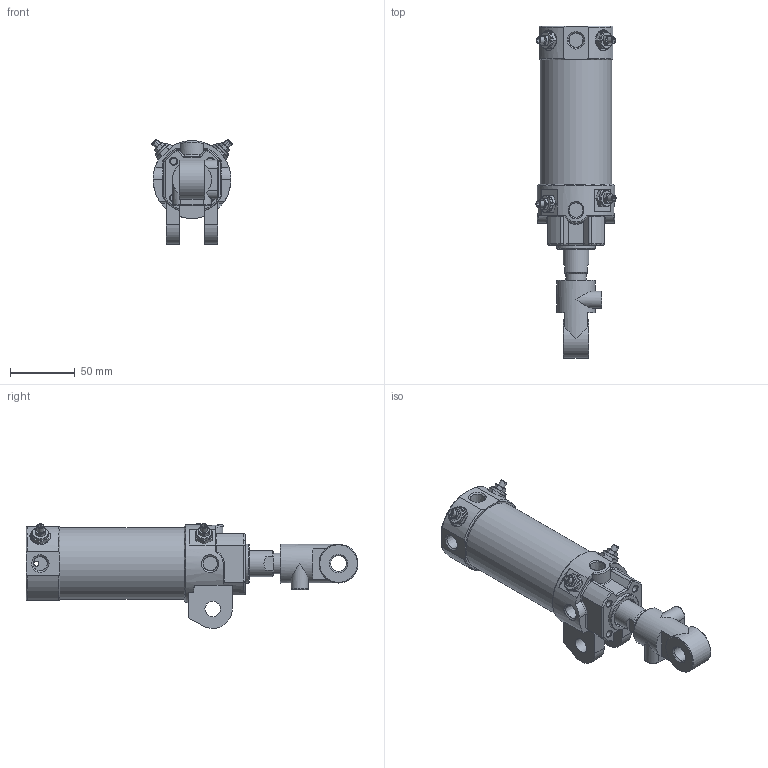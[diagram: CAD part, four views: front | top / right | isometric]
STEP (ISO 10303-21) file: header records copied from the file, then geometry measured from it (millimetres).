
FILE_DESCRIPTION((''),'2;1');
FILE_NAME('I:\3D電子目錄\氣缸\DCK\DCK\DCK-1B-50x50-I.stp','2008-02-26T14:30:11',('Administrator'),(''),'Autodesk Inventor 11','Autodesk Inventor 11','');
FILE_SCHEMA(('AUTOMOTIVE_DESIGN { 1 0 10303 214 1 1 1 1 }'));
Length unit declared in the file: millimetre
Products named in the file (6): DCK-1B-50-I; 緩衝針; 緩衝針-1; 緩衝針-201; 緩衝針-3
Assembly tree (8 placements, depth 3):
  DCK-1B-50-I
    DCK-1B-50-I
    緩衝針  x4
      緩衝針-1
      緩衝針-201
      緩衝針-3
Bounding box: 61.76 x 256 x 80.87 mm (x, y, z)
Volume: 263246.1 mm3; surface area: 101229.6 mm2
Topology: 16 solids, 16 shells, 617 faces, 1375 edges, 859 vertices
Faces by surface type: plane 227, cylinder 180, cone 141, torus 35, bspline 34
Full cylindrical faces by diameter (mm): 2 x2, 3 x4, 3.8 x2, 4 x6, 4.6 x4, 5 x8, 5.1 x4, 5.2 x12, 5.5 x4, 7.25 x1, 7.9 x4, 8 x2, 10.3 x1, 11.3 x1, 12 x5, 12.8 x4, 16 x3, 20 x1, 21 x1, 22 x2, 23 x1, 24.7 x1, 26 x1, 27 x1, 28 x1, 29 x1, 30 x3, 33 x1, 49.5 x1, 52 x2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
Entity records: 12811 total; most frequent: CARTESIAN_POINT 5086, DIRECTION 1580, ORIENTED_EDGE 1388, EDGE_CURVE 694, AXIS2_PLACEMENT_3D 690, EDGE_LOOP 570, VERTEX_POINT 506, FACE_OUTER_BOUND 368
